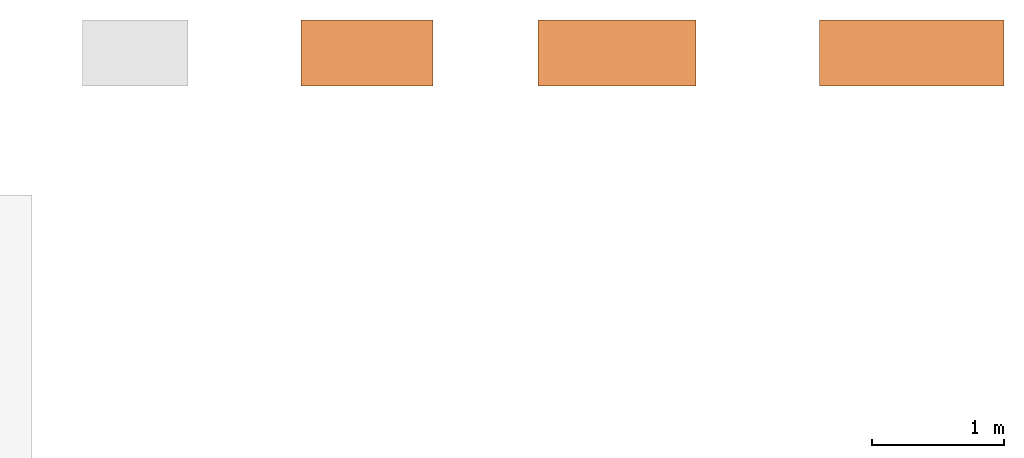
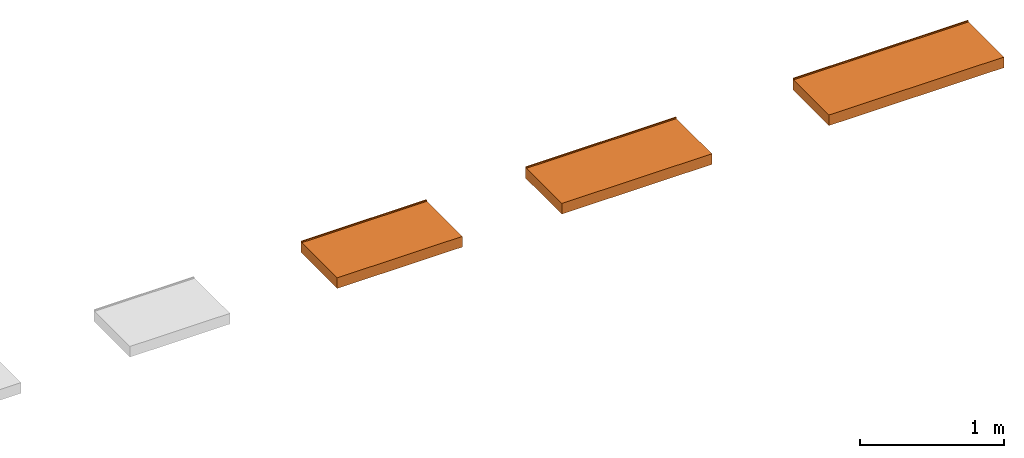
# One storey, part 2 of 3: 3 proxies.
"""IFC2X3 building model written with IfcOpenShell, lengths in millimetres."""

import ifcopenshell
import ifcopenshell.guid

model = None  # the IFC model being written
_history = None  # IfcOwnerHistory: only IFC2X3 demands one
_inside = {}  # id of a spatial element -> (the spatial element, [elements in it])
_under = {}  # id of a project, library or spatial element -> (it, [spatial elements below it])
_declared = {}  # id of a project -> (the project, [libraries it declares])
_typed = {}  # id of a type object -> (the type object, [elements of that type])
_made_of = {}  # id of a material, layer set ... -> (it, [elements and type objects made of it])


def new_model(schema):
    """Start an empty IFC model of exactly this schema.

    Asked for "IFC4X3", IfcOpenShell would pick the latest addendum, in which some entities
    have other attributes; the version numbers below select the first issue.
    IFC2X3 requires an IfcOwnerHistory on every rooted entity: one is made here for all.
    """
    global model, _history
    if schema == "IFC4X3":
        model = ifcopenshell.file(schema_version=(4, 3, 0, 0))
    else:
        model = ifcopenshell.file(schema=schema)
    _inside.clear()
    _under.clear()
    _declared.clear()
    _typed.clear()
    _made_of.clear()
    _history = None
    if model.schema == "IFC2X3":
        org = make("IfcOrganization", Name="unknown")
        user = make(
            "IfcPersonAndOrganization",
            ThePerson=make("IfcPerson", FamilyName="unknown"),
            TheOrganization=org,
        )
        app = make(
            "IfcApplication",
            ApplicationDeveloper=org,
            Version="unknown",
            ApplicationFullName="unknown",
            ApplicationIdentifier="unknown",
        )
        _history = make(
            "IfcOwnerHistory",
            OwningUser=user,
            OwningApplication=app,
            ChangeAction="ADDED",
            CreationDate=0,
        )
    return model


def make(cls, **values):
    """One entity of the class cls with the attributes given. An attribute that is None is left unset."""
    return model.create_entity(
        cls, **{name: value for name, value in values.items() if value is not None}
    )


def entity(cls, *values):
    """Any entity or typed value of the class cls, its attributes in the order of the schema. None: left unset."""
    e = model.create_entity(cls)
    for i, value in enumerate(values):
        if value is not None:
            e[i] = value
    return e


def rooted(cls, **values):
    """An entity with a GlobalId (a new one), such as an element, a storey or a relation."""
    return make(cls, GlobalId=ifcopenshell.guid.new(), OwnerHistory=_history, **values)


def si_unit(unit_type, name, prefix=None):
    """IfcSIUnit, for example si_unit("LENGTHUNIT", "METRE", prefix="MILLI")."""
    return make("IfcSIUnit", UnitType=unit_type, Prefix=prefix, Name=name)


def converted_unit(unit_type, name, factor, base, dimensions=None, offset=None):
    """IfcConversionBasedUnit, such as the inch: factor (a typed value) times the base unit."""
    return make(
        "IfcConversionBasedUnit"
        if offset is None
        else "IfcConversionBasedUnitWithOffset",
        ConversionOffset=offset,
        Dimensions=None
        if dimensions is None
        else entity("IfcDimensionalExponents", *dimensions),
        UnitType=unit_type,
        Name=name,
        ConversionFactor=make(
            "IfcMeasureWithUnit", ValueComponent=factor, UnitComponent=base
        ),
    )


def derived_unit(unit_type, elements):
    """IfcDerivedUnit: a product of units, each with its exponent."""
    return make(
        "IfcDerivedUnit",
        Elements=[
            make("IfcDerivedUnitElement", Unit=unit, Exponent=power)
            for unit, power in elements
        ],
        UnitType=unit_type,
    )


def assignment(units):
    """IfcUnitAssignment: the units of a project."""
    return None if units is None else make("IfcUnitAssignment", Units=units)


def point(xyz):
    """IfcCartesianPoint."""
    return None if xyz is None else make("IfcCartesianPoint", Coordinates=xyz)


def direction(xyz):
    """IfcDirection."""
    return None if xyz is None else make("IfcDirection", DirectionRatios=xyz)


def frame(location, z_axis=None, x_axis=None):
    """IfcAxis2Placement3D, a coordinate frame: its origin and axes. An axis left out is left unset."""
    return make(
        "IfcAxis2Placement3D",
        Location=point(location),
        Axis=direction(z_axis),
        RefDirection=direction(x_axis),
    )


def origin():
    """The frame at (0, 0, 0) with its axes left unset."""
    return frame((0.0, 0.0, 0.0))


def place(relative_to, where):
    """IfcLocalPlacement: puts the frame where relative to a parent placement (None: the world)."""
    return make(
        "IfcLocalPlacement", PlacementRelTo=relative_to, RelativePlacement=where
    )


def context(
    kind, dimensions, precision=None, world=None, true_north=None, identifier=None
):
    """IfcGeometricRepresentationContext, for example the 3D "Model" context."""
    return make(
        "IfcGeometricRepresentationContext",
        ContextIdentifier=identifier,
        ContextType=kind,
        CoordinateSpaceDimension=dimensions,
        Precision=precision,
        WorldCoordinateSystem=world,
        TrueNorth=true_north,
    )


def subcontext(parent, identifier, kind, view, scale=None):
    """IfcGeometricRepresentationSubContext, for example "Body" below "Model"."""
    return make(
        "IfcGeometricRepresentationSubContext",
        ContextIdentifier=identifier,
        ContextType=kind,
        ParentContext=parent,
        TargetScale=scale,
        TargetView=view,
    )


def project(units=None, contexts=None):
    """IfcProject with its units and contexts."""
    return rooted(
        "IfcProject",
        Name="project",
        RepresentationContexts=contexts,
        UnitsInContext=assignment(units),
    )


def spatial(cls, under=None, at=None, **own):
    """A site, building, storey or space (cls), placed at a placement, below another one or the project."""
    s = rooted(cls, ObjectPlacement=at, **own)
    if under is not None:
        _under.setdefault(under.id(), (under, []))[1].append(s)
    return s


def faces_of(points, faces, orient=None, outer=None):
    """IfcFace entities. A face is a list of loops; a loop is a list of indices into points, from 0.

    orient and outer hold one flag for each loop. By default every Orientation is true, the
    first loop of a face is its IfcFaceOuterBound and the others are IfcFaceBound.
    """
    made = []
    for i, loops in enumerate(faces):
        bounds = []
        for j, loop in enumerate(loops):
            is_outer = j == 0 if outer is None else outer[i][j]
            bounds.append(
                make(
                    "IfcFaceOuterBound" if is_outer else "IfcFaceBound",
                    Bound=make("IfcPolyLoop", Polygon=[points[k] for k in loop]),
                    Orientation=True if orient is None else orient[i][j],
                )
            )
        made.append(make("IfcFace", Bounds=bounds))
    return made


def faceted_brep(points, faces, orient=None, outer=None, voids=None):
    """IfcFacetedBrep: a solid bounded by flat faces; with voids (closed shells), ...WithVoids."""
    shared = [point(p) for p in points]
    hull = make("IfcClosedShell", CfsFaces=faces_of(shared, faces, orient, outer))
    if voids is None:
        return make("IfcFacetedBrep", Outer=hull)
    return make(
        "IfcFacetedBrepWithVoids",
        Outer=hull,
        Voids=[
            make(cls, CfsFaces=faces_of(shared, fs, o, b)) for cls, fs, o, b in voids
        ],
    )


def shape(context_of_items, identifier, shape_type, items):
    """IfcShapeRepresentation: the items that make up one representation, for example the "Body"."""
    return make(
        "IfcShapeRepresentation",
        ContextOfItems=context_of_items,
        RepresentationIdentifier=identifier,
        RepresentationType=shape_type,
        Items=items,
    )


def source(mapping_origin, context_of_items, identifier, shape_type, items):
    """IfcRepresentationMap: a shape defined once, which mapped items show again and again."""
    return make(
        "IfcRepresentationMap",
        MappingOrigin=mapping_origin,
        MappedRepresentation=shape(context_of_items, identifier, shape_type, items),
    )


def transform(
    local_origin,
    x_axis=None,
    y_axis=None,
    z_axis=None,
    scale=None,
    scale2=None,
    scale3=None,
    uniform=True,
):
    """IfcCartesianTransformationOperator3D, or its non-uniform kind. x_axis, y_axis, z_axis: its Axis1, 2, 3."""
    if uniform:
        return make(
            "IfcCartesianTransformationOperator3D",
            Axis1=direction(x_axis),
            Axis2=direction(y_axis),
            LocalOrigin=point(local_origin),
            Scale=scale,
            Axis3=direction(z_axis),
        )
    return make(
        "IfcCartesianTransformationOperator3DnonUniform",
        Axis1=direction(x_axis),
        Axis2=direction(y_axis),
        LocalOrigin=point(local_origin),
        Scale=scale,
        Axis3=direction(z_axis),
        Scale2=scale2,
        Scale3=scale3,
    )


def mapped(mapping_source, mapping_target):
    """IfcMappedItem: shows the shape of a source again, moved by a transform."""
    return make(
        "IfcMappedItem", MappingSource=mapping_source, MappingTarget=mapping_target
    )


def material(Name=None, Category=None):
    """IfcMaterial."""
    return make("IfcMaterial", Name=Name, Category=Category)


def made_of(thing, what):
    """Note that an element or type object is made of a material, layer set ...; save() writes the relation."""
    if what is not None:
        _made_of.setdefault(what.id(), (what, []))[1].append(thing)
    return thing


def type_object(cls, material=None, **own):
    """A type object (cls), such as IfcWallType, which elements share."""
    return made_of(rooted(cls, **own), material)


def type_shapes(of_type, sources):
    """Give a type object the sources (RepresentationMaps) that its elements show as mapped items."""
    of_type.RepresentationMaps = sources


def element(
    cls,
    number,
    at=None,
    inside=None,
    cuts=None,
    type_object=None,
    material=None,
    context=None,
    identifier="Body",
    shape_type=None,
    held_by="IfcProductDefinitionShape",
    body=None,
    shapes=None,
    **own,
):
    """One element of the class cls, such as IfcWall. Its Tag is "e" and its number.

    at: its placement. inside: the storey or other place that contains it. cuts: it is an
    opening in that element (IfcRelVoidsElement). A single representation is given by context,
    identifier, shape_type and body (its items); several are given by shapes. held_by: the class
    of the entity that holds the representations. save() writes the other relations.
    """
    e = rooted(cls, Tag="e%d" % number, ObjectPlacement=at, **own)
    if body is not None:
        shapes = [shape(context, identifier, shape_type, body)]
    if shapes is not None:
        e.Representation = make(held_by, Representations=shapes)
    if inside is not None:
        _inside.setdefault(inside.id(), (inside, []))[1].append(e)
    if cuts is not None:
        rooted(
            "IfcRelVoidsElement", RelatingBuildingElement=cuts, RelatedOpeningElement=e
        )
    if type_object is not None:
        _typed.setdefault(type_object.id(), (type_object, []))[1].append(e)
    return made_of(e, material)


def aggregate(whole, parts):
    """IfcRelAggregates: a whole, such as a stair, and the parts it consists of."""
    return rooted("IfcRelAggregates", RelatingObject=whole, RelatedObjects=parts)


def save(model, path):
    """Write the relations noted so far, then the file.

    IfcRelAggregates (storeys below a building ...), IfcRelContainedInSpatialStructure (elements
    in a storey), IfcRelDefinesByType, IfcRelAssociatesMaterial and IfcRelDeclares: one each for
    every whole, place, type object, material and project.
    """
    for whole, parts in _under.values():
        aggregate(whole, parts)
    for where, things in _inside.values():
        rooted(
            "IfcRelContainedInSpatialStructure",
            RelatedElements=things,
            RelatingStructure=where,
        )
    for kind, things in _typed.values():
        rooted("IfcRelDefinesByType", RelatedObjects=things, RelatingType=kind)
    for what, things in _made_of.values():
        rooted("IfcRelAssociatesMaterial", RelatedObjects=things, RelatingMaterial=what)
    for by, libraries in _declared.values():
        rooted("IfcRelDeclares", RelatingContext=by, RelatedDefinitions=libraries)
    model.write(path)


model = new_model("IFC2X3")

# Units and contexts
model_context = context("Model", 3, precision=0.01, world=origin(), true_north=direction((6.12303176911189e-17, 1.0)))
context_of_model = context(None, 3, precision=0.01, world=origin(), true_north=direction((6.12303176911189e-17, 1.0)))
body_context = subcontext(model_context, "Body", "Model", "MODEL_VIEW")
ifc_project = project(units=[si_unit("LENGTHUNIT", "METRE", prefix="MILLI"), si_unit("AREAUNIT", "SQUARE_METRE"), si_unit("VOLUMEUNIT", "CUBIC_METRE"), converted_unit("PLANEANGLEUNIT", "DEGREE", entity("IfcRatioMeasure", 0.0174532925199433), si_unit("PLANEANGLEUNIT", "RADIAN"), dimensions=[0, 0, 0, 0, 0, 0, 0]), si_unit("MASSUNIT", "GRAM", prefix="KILO"), derived_unit("MASSDENSITYUNIT", [(si_unit("MASSUNIT", "GRAM", prefix="KILO"), 1), (si_unit("LENGTHUNIT", "METRE"), -3)]), si_unit("TIMEUNIT", "SECOND"), si_unit("FREQUENCYUNIT", "HERTZ"), si_unit("THERMODYNAMICTEMPERATUREUNIT", "DEGREE_CELSIUS"), derived_unit("THERMALTRANSMITTANCEUNIT", [(si_unit("MASSUNIT", "GRAM", prefix="KILO"), 1), (si_unit("THERMODYNAMICTEMPERATUREUNIT", "KELVIN"), -1), (si_unit("TIMEUNIT", "SECOND"), -3)]), derived_unit("VOLUMETRICFLOWRATEUNIT", [(si_unit("LENGTHUNIT", "METRE"), 3), (si_unit("TIMEUNIT", "SECOND"), -1)]), si_unit("ELECTRICCURRENTUNIT", "AMPERE"), si_unit("ELECTRICVOLTAGEUNIT", "VOLT"), si_unit("POWERUNIT", "WATT"), si_unit("FORCEUNIT", "NEWTON", prefix="KILO"), si_unit("ILLUMINANCEUNIT", "LUX"), si_unit("LUMINOUSFLUXUNIT", "LUMEN"), si_unit("LUMINOUSINTENSITYUNIT", "CANDELA"), derived_unit("USERDEFINED", [(si_unit("MASSUNIT", "GRAM", prefix="KILO"), -1), (si_unit("LENGTHUNIT", "METRE"), -2), (si_unit("TIMEUNIT", "SECOND"), 3), (si_unit("LUMINOUSFLUXUNIT", "LUMEN"), 1)]), derived_unit("LINEARVELOCITYUNIT", [(si_unit("LENGTHUNIT", "METRE"), 1), (si_unit("TIMEUNIT", "SECOND"), -1)]), si_unit("PRESSUREUNIT", "PASCAL"), derived_unit("USERDEFINED", [(si_unit("LENGTHUNIT", "METRE"), -2), (si_unit("MASSUNIT", "GRAM", prefix="KILO"), 1), (si_unit("TIMEUNIT", "SECOND"), -2)])], contexts=[model_context, context_of_model])

# Site, building, storey
site_placement = place(None, origin())
site = spatial("IfcSite", under=ifc_project, at=site_placement, Name="Default", CompositionType="ELEMENT")
building_placement = place(site_placement, origin())
building = spatial("IfcBuilding", under=site, at=building_placement, Name="n/a", CompositionType="ELEMENT")
storey_placement = place(building_placement, origin())
storey = spatial("IfcBuildingStorey", under=building, at=storey_placement, Name="Level 0", CompositionType="ELEMENT", Elevation=0.0)

# Proxies
ifc_material = material(Name="DBLTD_Neilur_SolidSurface_White")
building_element_proxy_type_1 = type_object("IfcBuildingElementProxyType", PredefinedType="NOTDEFINED", material=ifc_material)
shared_shape_1 = source(origin(), body_context, "Body", "Brep", [
    faceted_brep([(1000.0, 490.0, 90.0), (1000.0, 0.0, 90.0), (1000.0, 0.0, 0.0), (1000.0, 500.0, 0.0), (1000.0, 500.0, 100.0), (1000.0, 490.0, 100.0), (0.0, 500.0, 0.0), (0.0, 0.0, 0.0), (0.0, 0.0, 90.0), (0.0, 490.0, 90.0), (0.0, 490.0, 100.0), (0.0, 500.0, 100.0), (959.104568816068, 490.0, 57.7377311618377), (961.036594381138, 490.0, 56.9374599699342), (990.0, 490.0, 80.0), (957.031250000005, 490.0, 58.0106887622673), (962.695662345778, 490.0, 55.6644123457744), (963.968709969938, 490.0, 54.0053443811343), (964.768981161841, 490.0, 52.0733188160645), (965.041938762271, 490.0, 50.0), (964.768981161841, 490.0, 47.9266811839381), (990.0, 490.0, 0.0), (963.968709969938, 490.0, 45.9946556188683), (962.695662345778, 490.0, 44.335587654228), (961.036594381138, 490.0, 43.0625400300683), (959.104568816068, 490.0, 42.2622688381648), (957.031250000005, 490.0, 41.9893112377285), (942.968750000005, 490.0, 41.9893112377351), (940.895431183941, 490.0, 42.2622688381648), (938.963405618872, 490.0, 43.0625400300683), (10.0, 490.0, 0.0), (61.0365943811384, 490.0, 43.0625400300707), (937.304337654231, 490.0, 44.335587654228), (62.6956623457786, 490.0, 44.3355876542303), (936.031290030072, 490.0, 45.9946556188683), (63.9687099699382, 490.0, 45.9946556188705), (935.231018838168, 490.0, 47.9266811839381), (64.7689811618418, 490.0, 47.9266811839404), (934.958061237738, 490.0, 50.0), (65.0419387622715, 490.0, 50.0), (64.7689811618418, 490.0, 52.0733188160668), (935.231018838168, 490.0, 52.0733188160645), (63.9687099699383, 490.0, 54.0053443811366), (936.031290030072, 490.0, 54.0053443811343), (62.6956623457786, 490.0, 55.6644123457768), (937.304337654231, 490.0, 55.6644123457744), (61.0365943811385, 490.0, 56.9374599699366), (938.963405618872, 490.0, 56.9374599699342), (940.895431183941, 490.0, 57.7377311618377), (10.0, 490.0, 80.0), (942.968750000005, 490.0, 58.0106887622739), (59.1045688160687, 490.0, 57.7377311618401), (59.1045688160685, 490.0, 42.2622688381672), (57.0312500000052, 490.0, 41.9893112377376), (42.9687500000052, 490.0, 41.9893112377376), (40.8954311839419, 490.0, 42.2622688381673), (38.9634056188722, 490.0, 43.0625400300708), (37.3043376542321, 490.0, 44.3355876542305), (36.0312900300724, 490.0, 45.9946556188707), (35.2310188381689, 490.0, 47.9266811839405), (34.9580612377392, 490.0, 50.0), (35.2310188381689, 490.0, 52.0733188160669), (36.0312900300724, 490.0, 54.0053443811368), (37.3043376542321, 490.0, 55.6644123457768), (38.9634056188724, 490.0, 56.9374599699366), (40.8954311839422, 490.0, 57.7377311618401), (42.9687500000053, 490.0, 58.0106887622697), (57.0312500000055, 490.0, 58.0106887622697), (990.0, 10.0, 0.0), (10.0, 10.0, 0.0), (957.031250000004, 500.0, 41.9893112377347), (959.104568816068, 500.0, 42.2622688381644), (942.968750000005, 500.0, 41.9893112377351), (961.036594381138, 500.0, 43.0625400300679), (962.695662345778, 500.0, 44.3355876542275), (963.968709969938, 500.0, 45.9946556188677), (964.768981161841, 500.0, 47.9266811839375), (965.041938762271, 500.0, 50.0), (940.895431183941, 500.0, 42.2622688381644), (938.963405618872, 500.0, 43.0625400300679), (61.0365943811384, 500.0, 43.0625400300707), (59.1045688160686, 500.0, 42.2622688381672), (57.0312500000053, 500.0, 41.9893112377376), (42.9687500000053, 500.0, 41.9893112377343), (40.895431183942, 500.0, 42.2622688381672), (38.9634056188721, 500.0, 43.0625400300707), (37.3043376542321, 500.0, 44.3355876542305), (36.0312900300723, 500.0, 45.9946556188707), (35.2310188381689, 500.0, 47.9266811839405), (34.9580612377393, 500.0, 50.0), (938.963405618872, 500.0, 56.9374599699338), (35.2310188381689, 500.0, 52.0733188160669), (36.0312900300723, 500.0, 54.0053443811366), (37.3043376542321, 500.0, 55.6644123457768), (38.9634056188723, 500.0, 56.9374599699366), (40.895431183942, 500.0, 57.7377311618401), (42.9687500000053, 500.0, 58.0106887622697), (57.0312500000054, 500.0, 58.0106887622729), (59.1045688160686, 500.0, 57.7377311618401), (61.0365943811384, 500.0, 56.9374599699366), (940.895431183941, 500.0, 57.7377311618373), (937.304337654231, 500.0, 55.664412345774), (62.6956623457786, 500.0, 55.6644123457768), (936.031290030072, 500.0, 54.0053443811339), (63.9687099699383, 500.0, 54.0053443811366), (935.231018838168, 500.0, 52.0733188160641), (64.7689811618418, 500.0, 52.0733188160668), (934.958061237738, 500.0, 50.0), (65.0419387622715, 500.0, 50.0), (64.7689811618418, 500.0, 47.9266811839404), (935.231018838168, 500.0, 47.9266811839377), (63.9687099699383, 500.0, 45.9946556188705), (936.031290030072, 500.0, 45.9946556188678), (62.6956623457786, 500.0, 44.3355876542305), (937.304337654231, 500.0, 44.3355876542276), (964.768981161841, 500.0, 52.073318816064), (963.968709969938, 500.0, 54.0053443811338), (962.695662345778, 500.0, 55.664412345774), (961.036594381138, 500.0, 56.9374599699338), (959.104568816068, 500.0, 57.7377311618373), (957.031250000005, 500.0, 58.0106887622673), (942.968750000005, 500.0, 58.0106887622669), (990.0, 10.0, 80.0), (10.0, 10.0, 80.0)], [[[0, 1, 2, 3, 4, 5]], [[6, 7, 8, 9, 10, 11]], [[0, 5, 10, 9]], [[0, 5, 10]], [[10, 9, 0]], [[12, 13, 14]], [[15, 12, 14]], [[16, 14, 13]], [[14, 16, 17]], [[14, 17, 18]], [[14, 18, 19]], [[19, 20, 14]], [[21, 14, 20]], [[21, 20, 22]], [[21, 22, 23]], [[23, 24, 21]], [[25, 21, 24]], [[26, 21, 25]], [[21, 26, 27]], [[21, 27, 28]], [[21, 28, 29]], [[21, 29, 30]], [[31, 30, 29]], [[32, 31, 29]], [[31, 32, 33]], [[33, 32, 34]], [[33, 34, 35]], [[35, 34, 36]], [[36, 37, 35]], [[37, 36, 38]], [[38, 39, 37]], [[40, 39, 38]], [[38, 41, 40]], [[41, 42, 40]], [[42, 41, 43]], [[43, 44, 42]], [[44, 43, 45]], [[44, 45, 46]], [[46, 45, 47]], [[14, 47, 48]], [[49, 47, 14]], [[47, 49, 46]], [[14, 48, 50]], [[14, 50, 15]], [[49, 51, 46]], [[30, 31, 52]], [[30, 52, 53]], [[53, 54, 30]], [[55, 30, 54]], [[30, 55, 56]], [[57, 30, 56]], [[30, 57, 58]], [[30, 58, 59]], [[59, 60, 49]], [[49, 30, 59]], [[49, 60, 61]], [[49, 61, 62]], [[49, 62, 63]], [[63, 64, 49]], [[49, 64, 65]], [[65, 66, 49]], [[67, 49, 66]], [[49, 67, 51]], [[1, 0, 9, 8]], [[2, 1, 8, 7]], [[2, 68, 21]], [[68, 2, 69]], [[21, 3, 2]], [[7, 69, 2]], [[69, 7, 30]], [[6, 30, 7]], [[30, 6, 3]], [[3, 21, 30]], [[3, 70, 71]], [[70, 3, 72]], [[3, 71, 73]], [[73, 74, 3]], [[75, 3, 74]], [[75, 76, 3]], [[3, 76, 77]], [[78, 72, 3]], [[79, 78, 3]], [[3, 6, 79]], [[77, 4, 3]], [[80, 79, 6]], [[81, 80, 6]], [[82, 81, 6]], [[6, 83, 82]], [[83, 6, 84]], [[84, 6, 85]], [[86, 85, 6]], [[86, 6, 87]], [[88, 87, 6]], [[6, 89, 88]], [[89, 6, 11]], [[4, 90, 11]], [[91, 89, 11]], [[92, 91, 11]], [[11, 93, 92]], [[93, 11, 94]], [[95, 94, 11]], [[95, 11, 96]], [[97, 96, 11]], [[98, 97, 11]], [[99, 98, 11]], [[99, 11, 90]], [[100, 90, 4]], [[101, 99, 90]], [[102, 99, 101]], [[101, 103, 102]], [[104, 102, 103]], [[103, 105, 104]], [[106, 104, 105]], [[107, 106, 105]], [[108, 106, 107]], [[109, 108, 107]], [[107, 110, 109]], [[109, 110, 111]], [[112, 111, 110]], [[113, 111, 112]], [[112, 114, 113]], [[79, 80, 114]], [[80, 113, 114]], [[77, 115, 4]], [[115, 116, 4]], [[117, 4, 116]], [[4, 117, 118]], [[118, 119, 4]], [[4, 119, 120]], [[120, 121, 4]], [[121, 100, 4]], [[5, 4, 11, 10]], [[49, 14, 122, 123]], [[30, 49, 123, 69]], [[69, 123, 122, 68]], [[68, 122, 14, 21]], [[96, 97, 67, 66]], [[121, 120, 15, 50]], [[96, 66, 65, 95]], [[95, 65, 64, 94]], [[92, 93, 63, 62]], [[63, 93, 94, 64]], [[91, 92, 62, 61]], [[91, 61, 60, 89]], [[89, 60, 59, 88]], [[88, 59, 58, 87]], [[85, 86, 57, 56]], [[57, 86, 87, 58]], [[84, 85, 56, 55]], [[84, 55, 54, 83]], [[82, 83, 54, 53]], [[70, 72, 27, 26]], [[81, 82, 53, 52]], [[81, 52, 31, 80]], [[111, 113, 33, 35]], [[113, 80, 31, 33]], [[111, 35, 37, 109]], [[109, 37, 39, 108]], [[108, 39, 40, 106]], [[106, 40, 42, 104]], [[99, 102, 44, 46]], [[44, 102, 104, 42]], [[98, 99, 46, 51]], [[98, 51, 67, 97]], [[48, 47, 90, 100]], [[50, 48, 100, 121]], [[43, 41, 105, 103]], [[45, 43, 103, 101]], [[47, 45, 101, 90]], [[41, 38, 107, 105]], [[34, 32, 114, 112]], [[36, 34, 112, 110]], [[28, 27, 72, 78]], [[29, 28, 78, 79]], [[32, 29, 79, 114]], [[110, 107, 38, 36]], [[25, 24, 73, 71]], [[26, 25, 71, 70]], [[22, 20, 76, 75]], [[23, 22, 75, 74]], [[24, 23, 74, 73]], [[20, 19, 77, 76]], [[17, 16, 117, 116]], [[18, 17, 116, 115]], [[12, 15, 120, 119]], [[13, 12, 119, 118]], [[16, 13, 118, 117]], [[115, 77, 19, 18]]]),
])
type_shapes(building_element_proxy_type_1, [shared_shape_1])
proxy_1_placement = place(storey_placement, frame((5658.41856859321, 2338.29335960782, 950.0)))
element("IfcBuildingElementProxy", 1, at=proxy_1_placement, inside=storey, type_object=building_element_proxy_type_1, material=ifc_material, Name="(11)", ObjectType="DBLTD_Neilur_Shelves_ShelfForCounertopBasin:Countertop Basin Shelf 1000 mm", context=body_context, shape_type="MappedRepresentation", body=[
    mapped(shared_shape_1, transform((0.0, 0.0, 0.0), scale=1.0)),
])
building_element_proxy_type_2 = type_object("IfcBuildingElementProxyType", PredefinedType="NOTDEFINED", material=ifc_material)
shared_shape_2 = source(origin(), body_context, "Body", "Brep", [
    faceted_brep([(1200.0, 490.0, 90.0), (1200.0, 0.0, 90.0), (1200.0, 0.0, 0.0), (1200.0, 500.0, 0.0), (1200.0, 500.0, 100.0), (1200.0, 490.0, 100.0), (0.0, 500.0, 0.0), (0.0, 0.0, 0.0), (0.0, 0.0, 90.0), (0.0, 490.0, 90.0), (0.0, 490.0, 100.0), (0.0, 500.0, 100.0), (1159.10456881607, 490.0, 57.7377311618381), (1161.03659438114, 490.0, 56.9374599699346), (1190.0, 490.0, 80.0), (1157.03125, 490.0, 58.0106887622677), (1162.69566234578, 490.0, 55.6644123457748), (1163.96870996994, 490.0, 54.0053443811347), (1164.76898116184, 490.0, 52.0733188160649), (1165.04193876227, 490.0, 50.0), (1164.76898116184, 490.0, 47.9266811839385), (1190.0, 490.0, 0.0), (1163.96870996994, 490.0, 45.9946556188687), (1162.69566234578, 490.0, 44.3355876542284), (1161.03659438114, 490.0, 43.0625400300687), (1159.10456881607, 490.0, 42.2622688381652), (1157.03125, 490.0, 41.9893112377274), (1142.96875, 490.0, 41.9893112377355), (1140.89543118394, 490.0, 42.2622688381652), (1138.96340561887, 490.0, 43.0625400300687), (1137.30433765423, 490.0, 44.3355876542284), (10.0, 490.0, 0.0), (62.6956623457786, 490.0, 44.3355876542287), (1136.03129003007, 490.0, 45.9946556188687), (63.9687099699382, 490.0, 45.9946556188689), (1135.23101883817, 490.0, 47.9266811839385), (64.7689811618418, 490.0, 47.9266811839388), (1134.95806123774, 490.0, 50.0), (65.0419387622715, 490.0, 50.0), (64.7689811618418, 490.0, 52.0733188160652), (1135.23101883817, 490.0, 52.0733188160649), (63.9687099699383, 490.0, 54.005344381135), (1136.03129003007, 490.0, 54.0053443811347), (62.6956623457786, 490.0, 55.6644123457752), (1137.30433765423, 490.0, 55.6644123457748), (61.0365943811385, 490.0, 56.937459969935), (1138.96340561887, 490.0, 56.9374599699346), (1140.89543118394, 490.0, 57.7377311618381), (10.0, 490.0, 80.0), (1142.96875, 490.0, 58.0106887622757), (59.1045688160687, 490.0, 57.7377311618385), (61.0365943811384, 490.0, 43.0625400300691), (59.1045688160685, 490.0, 42.2622688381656), (57.0312500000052, 490.0, 41.989311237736), (42.9687500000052, 490.0, 41.989311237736), (40.8954311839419, 490.0, 42.2622688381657), (38.9634056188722, 490.0, 43.0625400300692), (37.3043376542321, 490.0, 44.3355876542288), (36.0312900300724, 490.0, 45.9946556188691), (35.2310188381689, 490.0, 47.9266811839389), (34.9580612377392, 490.0, 50.0), (35.2310188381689, 490.0, 52.0733188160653), (36.0312900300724, 490.0, 54.0053443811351), (37.3043376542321, 490.0, 55.6644123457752), (38.9634056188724, 490.0, 56.937459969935), (40.8954311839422, 490.0, 57.7377311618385), (42.9687500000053, 490.0, 58.0106887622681), (57.0312500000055, 490.0, 58.0106887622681), (1190.0, 10.0, 0.0), (10.0, 10.0, 0.0), (1157.03125, 500.0, 41.9893112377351), (1159.10456881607, 500.0, 42.2622688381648), (1142.96875, 500.0, 41.9893112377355), (1161.03659438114, 500.0, 43.0625400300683), (1162.69566234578, 500.0, 44.3355876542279), (1163.96870996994, 500.0, 45.9946556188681), (1164.76898116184, 500.0, 47.9266811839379), (1165.04193876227, 500.0, 50.0), (1140.89543118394, 500.0, 42.2622688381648), (1138.96340561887, 500.0, 43.0625400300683), (61.0365943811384, 500.0, 43.0625400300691), (59.1045688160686, 500.0, 42.2622688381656), (57.0312500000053, 500.0, 41.989311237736), (42.9687500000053, 500.0, 41.9893112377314), (40.895431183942, 500.0, 42.2622688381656), (38.9634056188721, 500.0, 43.0625400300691), (37.3043376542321, 500.0, 44.3355876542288), (36.0312900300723, 500.0, 45.9946556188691), (35.2310188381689, 500.0, 47.9266811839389), (34.9580612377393, 500.0, 50.0), (1138.96340561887, 500.0, 56.9374599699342), (35.2310188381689, 500.0, 52.0733188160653), (36.0312900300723, 500.0, 54.005344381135), (37.3043376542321, 500.0, 55.6644123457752), (38.9634056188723, 500.0, 56.937459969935), (40.895431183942, 500.0, 57.7377311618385), (42.9687500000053, 500.0, 58.0106887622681), (57.0312500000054, 500.0, 58.0106887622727), (59.1045688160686, 500.0, 57.7377311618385), (61.0365943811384, 500.0, 56.937459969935), (1140.89543118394, 500.0, 57.7377311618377), (1137.30433765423, 500.0, 55.6644123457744), (62.6956623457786, 500.0, 55.6644123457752), (1136.03129003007, 500.0, 54.0053443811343), (63.9687099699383, 500.0, 54.005344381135), (1135.23101883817, 500.0, 52.0733188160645), (64.7689811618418, 500.0, 52.0733188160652), (1134.95806123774, 500.0, 50.0), (65.0419387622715, 500.0, 50.0), (64.7689811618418, 500.0, 47.9266811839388), (1135.23101883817, 500.0, 47.9266811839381), (63.9687099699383, 500.0, 45.9946556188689), (1136.03129003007, 500.0, 45.9946556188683), (62.6956623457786, 500.0, 44.3355876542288), (1137.30433765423, 500.0, 44.335587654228), (1164.76898116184, 500.0, 52.0733188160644), (1163.96870996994, 500.0, 54.0053443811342), (1162.69566234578, 500.0, 55.6644123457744), (1161.03659438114, 500.0, 56.9374599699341), (1159.10456881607, 500.0, 57.7377311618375), (1157.03125, 500.0, 58.0106887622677), (1142.96875, 500.0, 58.0106887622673), (1190.0, 10.0, 80.0), (10.0, 10.0, 80.0)], [[[0, 1, 2, 3, 4, 5]], [[6, 7, 8, 9, 10, 11]], [[0, 5, 10, 9]], [[0, 5, 9]], [[10, 9, 5]], [[12, 13, 14]], [[15, 12, 14]], [[16, 14, 13]], [[14, 16, 17]], [[14, 17, 18]], [[14, 18, 19]], [[19, 20, 14]], [[21, 14, 20]], [[21, 20, 22]], [[21, 22, 23]], [[23, 24, 21]], [[25, 21, 24]], [[26, 21, 25]], [[21, 26, 27]], [[21, 27, 28]], [[21, 28, 29]], [[29, 30, 21]], [[31, 21, 30]], [[31, 30, 32]], [[32, 30, 33]], [[32, 33, 34]], [[34, 33, 35]], [[35, 36, 34]], [[36, 35, 37]], [[37, 38, 36]], [[39, 38, 37]], [[37, 40, 39]], [[40, 41, 39]], [[41, 40, 42]], [[42, 43, 41]], [[43, 42, 44]], [[43, 44, 45]], [[45, 44, 46]], [[14, 46, 47]], [[48, 46, 14]], [[46, 48, 45]], [[14, 47, 49]], [[14, 49, 15]], [[48, 50, 45]], [[31, 32, 51]], [[31, 51, 52]], [[31, 52, 53]], [[53, 54, 31]], [[55, 31, 54]], [[31, 55, 56]], [[57, 31, 56]], [[31, 57, 58]], [[31, 58, 59]], [[59, 60, 48]], [[48, 31, 59]], [[48, 60, 61]], [[48, 61, 62]], [[48, 62, 63]], [[63, 64, 48]], [[48, 64, 65]], [[65, 66, 48]], [[67, 48, 66]], [[48, 67, 50]], [[1, 0, 9, 8]], [[2, 1, 8, 7]], [[2, 68, 21]], [[68, 2, 69]], [[21, 3, 2]], [[7, 69, 2]], [[69, 7, 31]], [[6, 31, 7]], [[31, 6, 3]], [[3, 21, 31]], [[3, 70, 71]], [[70, 3, 72]], [[3, 71, 73]], [[73, 74, 3]], [[75, 3, 74]], [[75, 76, 3]], [[3, 76, 77]], [[78, 72, 3]], [[79, 78, 3]], [[3, 6, 79]], [[77, 4, 3]], [[80, 79, 6]], [[81, 80, 6]], [[82, 81, 6]], [[6, 83, 82]], [[83, 6, 84]], [[84, 6, 85]], [[86, 85, 6]], [[86, 6, 87]], [[88, 87, 6]], [[6, 89, 88]], [[89, 6, 11]], [[4, 90, 11]], [[91, 89, 11]], [[92, 91, 11]], [[11, 93, 92]], [[93, 11, 94]], [[95, 94, 11]], [[95, 11, 96]], [[97, 96, 11]], [[98, 97, 11]], [[99, 98, 11]], [[99, 11, 90]], [[100, 90, 4]], [[101, 99, 90]], [[102, 99, 101]], [[101, 103, 102]], [[104, 102, 103]], [[103, 105, 104]], [[106, 104, 105]], [[107, 106, 105]], [[108, 106, 107]], [[109, 108, 107]], [[107, 110, 109]], [[109, 110, 111]], [[112, 111, 110]], [[113, 111, 112]], [[112, 114, 113]], [[79, 80, 114]], [[80, 113, 114]], [[77, 115, 4]], [[115, 116, 4]], [[117, 4, 116]], [[4, 117, 118]], [[118, 119, 4]], [[4, 119, 120]], [[120, 121, 4]], [[121, 100, 4]], [[5, 4, 11, 10]], [[48, 14, 122, 123]], [[31, 48, 123, 69]], [[69, 123, 122, 68]], [[68, 122, 14, 21]], [[96, 97, 67, 66]], [[121, 120, 15, 49]], [[96, 66, 65, 95]], [[95, 65, 64, 94]], [[92, 93, 63, 62]], [[63, 93, 94, 64]], [[91, 92, 62, 61]], [[91, 61, 60, 89]], [[89, 60, 59, 88]], [[88, 59, 58, 87]], [[85, 86, 57, 56]], [[57, 86, 87, 58]], [[84, 85, 56, 55]], [[84, 55, 54, 83]], [[82, 83, 54, 53]], [[70, 72, 27, 26]], [[81, 82, 53, 52]], [[81, 52, 51, 80]], [[111, 113, 32, 34]], [[113, 80, 51, 32]], [[111, 34, 36, 109]], [[109, 36, 38, 108]], [[108, 38, 39, 106]], [[106, 39, 41, 104]], [[99, 102, 43, 45]], [[43, 102, 104, 41]], [[98, 99, 45, 50]], [[98, 50, 67, 97]], [[47, 46, 90, 100]], [[49, 47, 100, 121]], [[42, 40, 105, 103]], [[44, 42, 103, 101]], [[46, 44, 101, 90]], [[40, 37, 107, 105]], [[33, 30, 114, 112]], [[35, 33, 112, 110]], [[28, 27, 72, 78]], [[29, 28, 78, 79]], [[30, 29, 79, 114]], [[110, 107, 37, 35]], [[25, 24, 73, 71]], [[26, 25, 71, 70]], [[22, 20, 76, 75]], [[23, 22, 75, 74]], [[24, 23, 74, 73]], [[20, 19, 77, 76]], [[17, 16, 117, 116]], [[18, 17, 116, 115]], [[12, 15, 120, 119]], [[13, 12, 119, 118]], [[16, 13, 118, 117]], [[115, 77, 19, 18]]]),
])
type_shapes(building_element_proxy_type_2, [shared_shape_2])
proxy_2_placement = place(storey_placement, frame((7454.31982800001, 2338.29335960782, 950.0)))
element("IfcBuildingElementProxy", 2, at=proxy_2_placement, inside=storey, type_object=building_element_proxy_type_2, material=ifc_material, Name="(13)", ObjectType="DBLTD_Neilur_Shelves_ShelfForCounertopBasin:Countertop Basin Shelf 1200 mm", context=body_context, shape_type="MappedRepresentation", body=[
    mapped(shared_shape_2, transform((0.0, 0.0, 0.0), scale=1.0)),
])
building_element_proxy_type_3 = type_object("IfcBuildingElementProxyType", PredefinedType="NOTDEFINED", material=ifc_material)
shared_shape_3 = source(origin(), body_context, "Body", "Brep", [
    faceted_brep([(1400.0, 490.0, 90.0), (1400.0, 0.0, 90.0), (1400.0, 0.0, 0.0), (1400.0, 500.0, 0.0), (1400.0, 500.0, 100.0), (1400.0, 490.0, 100.0), (0.0, 500.0, 0.0), (0.0, 0.0, 0.0), (0.0, 0.0, 90.0), (0.0, 490.0, 90.0), (0.0, 490.0, 100.0), (0.0, 500.0, 100.0), (1359.10456881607, 490.0, 57.7377311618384), (1361.03659438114, 490.0, 56.9374599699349), (1390.0, 490.0, 80.0), (1357.03125, 490.0, 58.010688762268), (1362.69566234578, 490.0, 55.6644123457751), (1363.96870996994, 490.0, 54.005344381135), (1364.76898116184, 490.0, 52.0733188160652), (1365.04193876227, 490.0, 50.0), (1364.76898116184, 490.0, 47.9266811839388), (1390.0, 490.0, 0.0), (1363.96870996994, 490.0, 45.9946556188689), (1362.69566234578, 490.0, 44.3355876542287), (1361.03659438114, 490.0, 43.0625400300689), (1359.10456881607, 490.0, 42.2622688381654), (1357.03125, 490.0, 41.989311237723), (1342.96875, 490.0, 41.9893112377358), (1340.89543118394, 490.0, 42.2622688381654), (1338.96340561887, 490.0, 43.0625400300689), (1337.30433765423, 490.0, 44.3355876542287), (10.0, 490.0, 0.0), (62.6956623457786, 490.0, 44.3355876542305), (1336.03129003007, 490.0, 45.9946556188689), (63.9687099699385, 490.0, 45.9946556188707), (1335.23101883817, 490.0, 47.9266811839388), (64.7689811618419, 490.0, 47.9266811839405), (1334.95806123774, 490.0, 50.0), (65.0419387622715, 490.0, 50.0), (64.7689811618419, 490.0, 52.0733188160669), (1335.23101883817, 490.0, 52.0733188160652), (63.9687099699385, 490.0, 54.0053443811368), (1336.03129003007, 490.0, 54.005344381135), (62.6956623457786, 490.0, 55.6644123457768), (1337.30433765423, 490.0, 55.6644123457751), (61.0365943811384, 490.0, 56.9374599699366), (1338.96340561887, 490.0, 56.9374599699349), (1340.89543118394, 490.0, 57.7377311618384), (10.0, 490.0, 80.0), (1342.96875, 490.0, 58.0106887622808), (59.1045688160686, 490.0, 57.7377311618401), (61.0365943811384, 490.0, 43.0625400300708), (59.1045688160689, 490.0, 42.2622688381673), (57.0312500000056, 490.0, 41.9893112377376), (42.9687500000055, 490.0, 41.9893112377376), (40.8954311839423, 490.0, 42.2622688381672), (38.9634056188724, 490.0, 43.0625400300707), (37.3043376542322, 490.0, 44.3355876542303), (36.0312900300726, 490.0, 45.9946556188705), (35.2310188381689, 490.0, 47.9266811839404), (34.9580612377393, 490.0, 50.0), (35.2310188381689, 490.0, 52.0733188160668), (36.0312900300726, 490.0, 54.0053443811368), (37.3043376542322, 490.0, 55.6644123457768), (38.9634056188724, 490.0, 56.9374599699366), (40.8954311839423, 490.0, 57.7377311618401), (42.9687500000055, 490.0, 58.0106887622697), (57.0312500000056, 490.0, 58.0106887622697), (1390.0, 10.0, 0.0), (10.0, 10.0, 0.0), (1357.03125, 500.0, 41.9893112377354), (1359.10456881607, 500.0, 42.262268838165), (1342.96875, 500.0, 41.9893112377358), (1361.03659438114, 500.0, 43.0625400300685), (1362.69566234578, 500.0, 44.3355876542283), (1363.96870996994, 500.0, 45.9946556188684), (1364.76898116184, 500.0, 47.9266811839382), (1365.04193876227, 500.0, 50.0), (1340.89543118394, 500.0, 42.262268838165), (1338.96340561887, 500.0, 43.0625400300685), (61.0365943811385, 500.0, 43.0625400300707), (59.1045688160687, 500.0, 42.2622688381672), (57.0312500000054, 500.0, 41.9893112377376), (42.9687500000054, 500.0, 41.989311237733), (40.8954311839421, 500.0, 42.2622688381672), (38.9634056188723, 500.0, 43.0625400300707), (37.3043376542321, 500.0, 44.3355876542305), (36.0312900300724, 500.0, 45.9946556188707), (35.2310188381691, 500.0, 47.9266811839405), (34.9580612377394, 500.0, 50.0), (1338.96340561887, 500.0, 56.9374599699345), (35.2310188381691, 500.0, 52.0733188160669), (36.0312900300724, 500.0, 54.0053443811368), (37.3043376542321, 500.0, 55.6644123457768), (38.9634056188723, 500.0, 56.9374599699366), (40.8954311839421, 500.0, 57.7377311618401), (42.9687500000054, 500.0, 58.0106887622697), (57.0312500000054, 500.0, 58.0106887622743), (59.1045688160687, 500.0, 57.7377311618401), (61.0365943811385, 500.0, 56.9374599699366), (1340.89543118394, 500.0, 57.737731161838), (1337.30433765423, 500.0, 55.6644123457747), (62.6956623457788, 500.0, 55.6644123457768), (1336.03129003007, 500.0, 54.0053443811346), (63.9687099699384, 500.0, 54.0053443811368), (1335.23101883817, 500.0, 52.0733188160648), (64.7689811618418, 500.0, 52.0733188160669), (1334.95806123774, 500.0, 50.0), (65.0419387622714, 500.0, 50.0), (64.7689811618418, 500.0, 47.9266811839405), (1335.23101883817, 500.0, 47.9266811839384), (63.9687099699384, 500.0, 45.9946556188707), (1336.03129003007, 500.0, 45.9946556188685), (62.6956623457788, 500.0, 44.3355876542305), (1337.30433765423, 500.0, 44.3355876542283), (1364.76898116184, 500.0, 52.0733188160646), (1363.96870996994, 500.0, 54.0053443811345), (1362.69566234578, 500.0, 55.6644123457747), (1361.03659438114, 500.0, 56.9374599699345), (1359.10456881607, 500.0, 57.737731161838), (1357.03125, 500.0, 58.010688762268), (1342.96875, 500.0, 58.0106887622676), (10.0, 10.0, 80.0), (1390.0, 10.0, 80.0)], [[[0, 1, 2, 3, 4, 5]], [[6, 7, 8, 9, 10, 11]], [[0, 5, 10, 9]], [[0, 5, 10]], [[10, 9, 0]], [[12, 13, 14]], [[15, 12, 14]], [[16, 14, 13]], [[14, 16, 17]], [[14, 17, 18]], [[14, 18, 19]], [[19, 20, 14]], [[21, 14, 20]], [[21, 20, 22]], [[21, 22, 23]], [[23, 24, 21]], [[25, 21, 24]], [[26, 21, 25]], [[21, 26, 27]], [[21, 27, 28]], [[21, 28, 29]], [[29, 30, 21]], [[31, 21, 30]], [[31, 30, 32]], [[32, 30, 33]], [[32, 33, 34]], [[34, 33, 35]], [[35, 36, 34]], [[36, 35, 37]], [[37, 38, 36]], [[39, 38, 37]], [[37, 40, 39]], [[40, 41, 39]], [[41, 40, 42]], [[42, 43, 41]], [[43, 42, 44]], [[43, 44, 45]], [[45, 44, 46]], [[14, 46, 47]], [[48, 46, 14]], [[46, 48, 45]], [[14, 47, 49]], [[14, 49, 15]], [[48, 50, 45]], [[31, 32, 51]], [[31, 51, 52]], [[31, 52, 53]], [[53, 54, 31]], [[55, 31, 54]], [[31, 55, 56]], [[57, 31, 56]], [[31, 57, 58]], [[31, 58, 59]], [[59, 60, 48]], [[48, 31, 59]], [[48, 60, 61]], [[48, 61, 62]], [[48, 62, 63]], [[63, 64, 48]], [[48, 64, 65]], [[65, 66, 48]], [[67, 48, 66]], [[48, 67, 50]], [[1, 0, 9, 8]], [[2, 1, 8, 7]], [[2, 68, 21]], [[68, 2, 69]], [[21, 3, 2]], [[7, 69, 2]], [[69, 7, 31]], [[6, 31, 7]], [[31, 6, 3]], [[3, 21, 31]], [[3, 70, 71]], [[70, 3, 72]], [[3, 71, 73]], [[73, 74, 3]], [[75, 3, 74]], [[75, 76, 3]], [[3, 76, 77]], [[78, 72, 3]], [[79, 78, 3]], [[3, 6, 79]], [[77, 4, 3]], [[80, 79, 6]], [[81, 80, 6]], [[82, 81, 6]], [[6, 83, 82]], [[83, 6, 84]], [[84, 6, 85]], [[86, 85, 6]], [[86, 6, 87]], [[88, 87, 6]], [[6, 89, 88]], [[89, 6, 11]], [[4, 90, 11]], [[91, 89, 11]], [[92, 91, 11]], [[11, 93, 92]], [[93, 11, 94]], [[95, 94, 11]], [[95, 11, 96]], [[97, 96, 11]], [[98, 97, 11]], [[99, 98, 11]], [[99, 11, 90]], [[100, 90, 4]], [[101, 99, 90]], [[102, 99, 101]], [[101, 103, 102]], [[104, 102, 103]], [[103, 105, 104]], [[106, 104, 105]], [[107, 106, 105]], [[108, 106, 107]], [[109, 108, 107]], [[107, 110, 109]], [[109, 110, 111]], [[112, 111, 110]], [[113, 111, 112]], [[112, 114, 113]], [[79, 80, 114]], [[80, 113, 114]], [[77, 115, 4]], [[115, 116, 4]], [[117, 4, 116]], [[4, 117, 118]], [[118, 119, 4]], [[4, 119, 120]], [[120, 121, 4]], [[121, 100, 4]], [[5, 4, 11, 10]], [[122, 48, 14, 123]], [[31, 48, 122, 69]], [[69, 122, 123, 68]], [[68, 123, 14, 21]], [[96, 97, 67, 66]], [[121, 120, 15, 49]], [[96, 66, 65, 95]], [[95, 65, 64, 94]], [[92, 93, 63, 62]], [[63, 93, 94, 64]], [[91, 92, 62, 61]], [[91, 61, 60, 89]], [[89, 60, 59, 88]], [[88, 59, 58, 87]], [[85, 86, 57, 56]], [[57, 86, 87, 58]], [[84, 85, 56, 55]], [[84, 55, 54, 83]], [[82, 83, 54, 53]], [[70, 72, 27, 26]], [[81, 82, 53, 52]], [[81, 52, 51, 80]], [[111, 113, 32, 34]], [[113, 80, 51, 32]], [[111, 34, 36, 109]], [[109, 36, 38, 108]], [[108, 38, 39, 106]], [[106, 39, 41, 104]], [[99, 102, 43, 45]], [[43, 102, 104, 41]], [[98, 99, 45, 50]], [[98, 50, 67, 97]], [[47, 46, 90, 100]], [[49, 47, 100, 121]], [[42, 40, 105, 103]], [[44, 42, 103, 101]], [[46, 44, 101, 90]], [[40, 37, 107, 105]], [[33, 30, 114, 112]], [[35, 33, 112, 110]], [[28, 27, 72, 78]], [[29, 28, 78, 79]], [[30, 29, 79, 114]], [[110, 107, 37, 35]], [[25, 24, 73, 71]], [[26, 25, 71, 70]], [[22, 20, 76, 75]], [[23, 22, 75, 74]], [[24, 23, 74, 73]], [[20, 19, 77, 76]], [[17, 16, 117, 116]], [[18, 17, 116, 115]], [[12, 15, 120, 119]], [[13, 12, 119, 118]], [[16, 13, 118, 117]], [[115, 77, 19, 18]]]),
])
type_shapes(building_element_proxy_type_3, [shared_shape_3])
proxy_3_placement = place(storey_placement, frame((9590.54820675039, 2338.29335960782, 950.0)))
element("IfcBuildingElementProxy", 3, at=proxy_3_placement, inside=storey, type_object=building_element_proxy_type_3, material=ifc_material, Name="(15)", ObjectType="DBLTD_Neilur_Shelves_ShelfForCounertopBasin:Countertop Basin Shelf 1400 mm", context=body_context, shape_type="MappedRepresentation", body=[
    mapped(shared_shape_3, transform((0.0, 0.0, 0.0), scale=1.0)),
])

save(model, "model.ifc")
